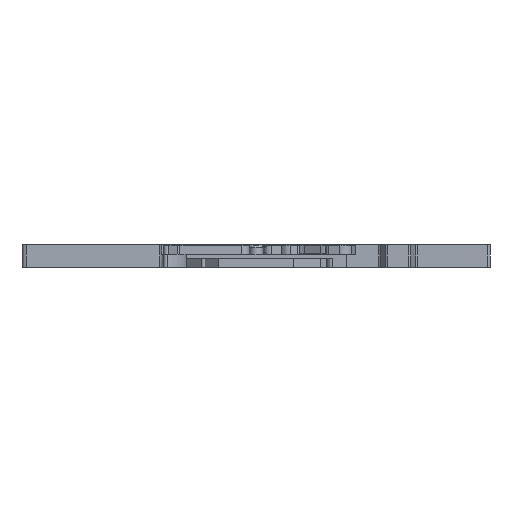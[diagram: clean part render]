
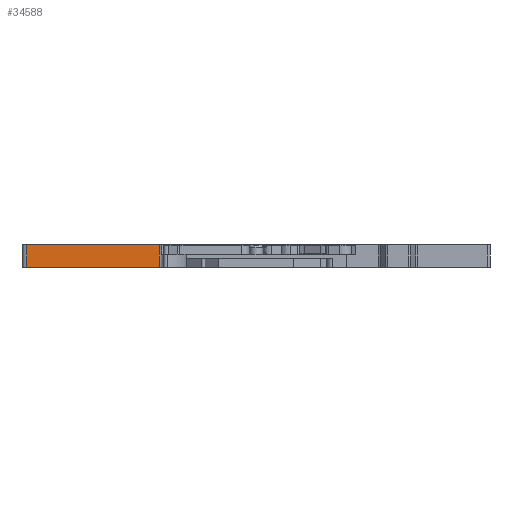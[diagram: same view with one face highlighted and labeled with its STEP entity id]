
A CAD part, front view. The second image highlights one B-rep face of the part: STEP entity #34588.
In plain terms, the highlighted planar face has unit normal (0, -1, 0).
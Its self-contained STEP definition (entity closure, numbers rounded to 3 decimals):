
#2849 = DIRECTION ( 'NONE',  ( 1., 0., 0. ) ) ;
#3551 = EDGE_CURVE ( 'NONE', #55803, #52290, #52511, .T. ) ;
#4128 = DIRECTION ( 'NONE',  ( 0., 0., 1. ) ) ;
#9829 = CARTESIAN_POINT ( 'NONE',  ( -27.148, -5.97, -21.577 ) ) ;
#9968 = EDGE_CURVE ( 'NONE', #16690, #55262, #15113, .T. ) ;
#15113 = LINE ( 'NONE', #71712, #36467 ) ;
#15447 = EDGE_LOOP ( 'NONE', ( #57370, #25949, #71381, #65909 ) ) ;
#16690 = VERTEX_POINT ( 'NONE', #68433 ) ;
#20693 = VECTOR ( 'NONE', #66998, 1000. ) ;
#20701 = AXIS2_PLACEMENT_3D ( 'NONE', #9829, #38385, #2849 ) ;
#25949 = ORIENTED_EDGE ( 'NONE', *, *, #3551, .T. ) ;
#27175 = LINE ( 'NONE', #62045, #33356 ) ;
#28971 = CARTESIAN_POINT ( 'NONE',  ( -27.148, -5.97, -16.577 ) ) ;
#33356 = VECTOR ( 'NONE', #50875, 1000. ) ;
#34588 = ADVANCED_FACE ( 'NONE', ( #37167 ), #36410, .T. ) ;
#36410 = PLANE ( 'NONE',  #20701 ) ;
#36467 = VECTOR ( 'NONE', #4128, 1000. ) ;
#37167 = FACE_OUTER_BOUND ( 'NONE', #15447, .T. ) ;
#37409 = CARTESIAN_POINT ( 'NONE',  ( -27.148, -5.97, -21.577 ) ) ;
#38385 = DIRECTION ( 'NONE',  ( 0., -1., 0. ) ) ;
#40246 = LINE ( 'NONE', #37409, #20693 ) ;
#43652 = VECTOR ( 'NONE', #56227, 1000. ) ;
#50875 = DIRECTION ( 'NONE',  ( 1., 0., 0. ) ) ;
#51010 = CARTESIAN_POINT ( 'NONE',  ( -56.448, -5.97, -21.577 ) ) ;
#51643 = EDGE_CURVE ( 'NONE', #55803, #55262, #27175, .T. ) ;
#52290 = VERTEX_POINT ( 'NONE', #62484 ) ;
#52511 = LINE ( 'NONE', #51010, #43652 ) ;
#55262 = VERTEX_POINT ( 'NONE', #28971 ) ;
#55803 = VERTEX_POINT ( 'NONE', #68639 ) ;
#56227 = DIRECTION ( 'NONE',  ( 0., 0., -1. ) ) ;
#57370 = ORIENTED_EDGE ( 'NONE', *, *, #51643, .F. ) ;
#62045 = CARTESIAN_POINT ( 'NONE',  ( -27.148, -5.97, -16.577 ) ) ;
#62484 = CARTESIAN_POINT ( 'NONE',  ( -56.448, -5.97, -21.577 ) ) ;
#62820 = EDGE_CURVE ( 'NONE', #52290, #16690, #40246, .T. ) ;
#65909 = ORIENTED_EDGE ( 'NONE', *, *, #9968, .T. ) ;
#66998 = DIRECTION ( 'NONE',  ( 1., 0., 0. ) ) ;
#68433 = CARTESIAN_POINT ( 'NONE',  ( -27.148, -5.97, -21.577 ) ) ;
#68639 = CARTESIAN_POINT ( 'NONE',  ( -56.448, -5.97, -16.577 ) ) ;
#71381 = ORIENTED_EDGE ( 'NONE', *, *, #62820, .T. ) ;
#71712 = CARTESIAN_POINT ( 'NONE',  ( -27.148, -5.97, -21.577 ) ) ;
